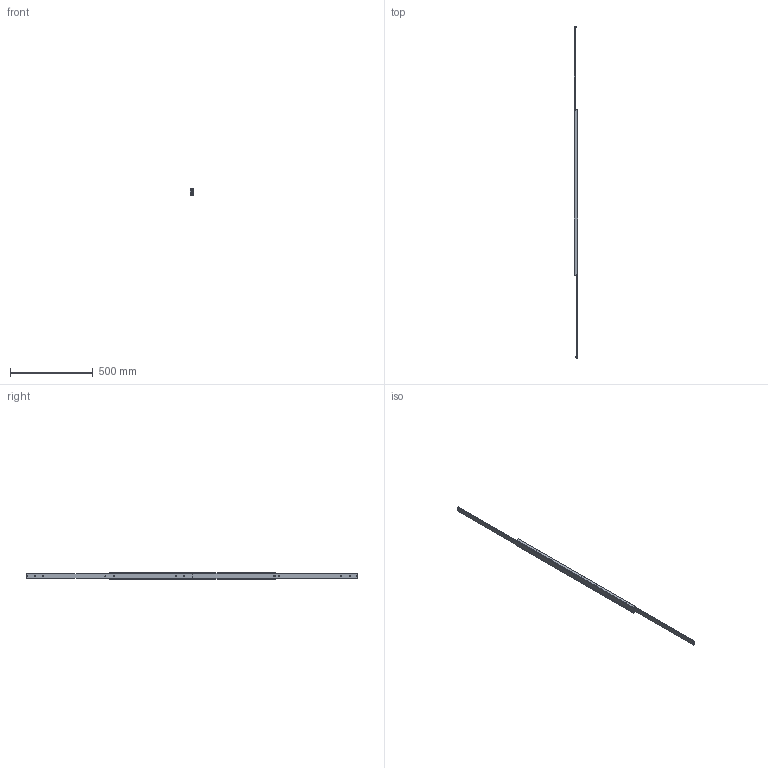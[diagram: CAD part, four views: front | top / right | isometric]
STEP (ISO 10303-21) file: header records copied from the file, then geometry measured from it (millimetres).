
FILE_DESCRIPTION(/* description */ (''),/* implementation_level */ '2;1');
FILE_NAME(/* name */ 'C:\Users\Miluxor\Desktop\Miluxor Schienen\Original Zeichnungen\Zeichnungen Schienen Komplett\MX-DTP40\MX-DTP40.100\MX-DTP40.100_ausgefahren.stp',/* time_stamp */ '2019-05-13T10:18:06+02:00',/* author */ ('Miluxor'),/* organization */ (''),/* preprocessor_version */ 'ST-DEVELOPER v16.13',/* originating_system */ 'AutoCAD Mechanical',/* authorisation */ '');
FILE_SCHEMA (('AUTOMOTIVE_DESIGN { 1 0 10303 214 3 1 1 }'));
Products named in the file (1): Product
Bounding box: 24 x 2005 x 40.5 mm (x, y, z)
Volume: 749232.6 mm3; surface area: 359628.1 mm2
Topology: 95 solids, 95 shells, 618 faces, 1580 edges, 1048 vertices
Faces by surface type: plane 392, cylinder 88, bspline 68, sphere 56, cone 8, torus 6
Full cylindrical faces by diameter (mm): 4 x2, 6 x68, 10 x2
Entity records: 55147 total; most frequent: CARTESIAN_POINT 41077, ORIENTED_EDGE 2744, DIRECTION 2556, EDGE_CURVE 1372, VERTEX_POINT 1038, LINE 930, VECTOR 930, EDGE_LOOP 848
